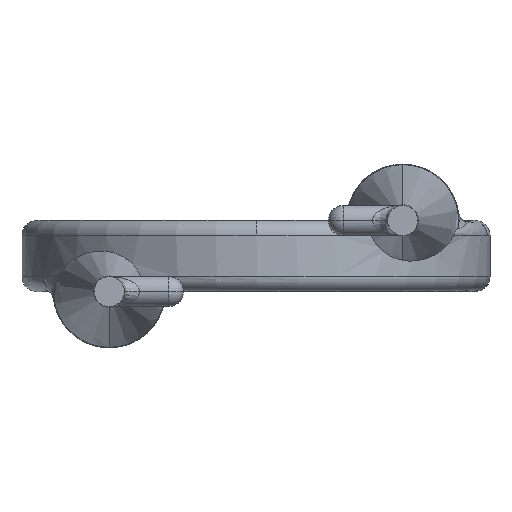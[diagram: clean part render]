
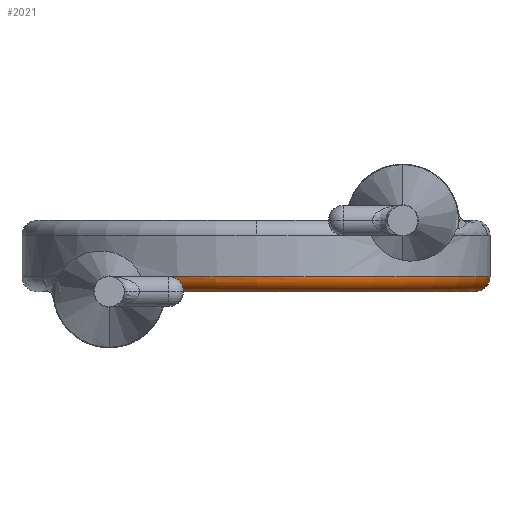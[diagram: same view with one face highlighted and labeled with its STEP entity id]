
A CAD part, front view. The second image highlights one B-rep face of the part: STEP entity #2021.
In plain terms, the highlighted toroidal (fillet/blend) face has major radius 3.7 mm and minor radius 0.25 mm.
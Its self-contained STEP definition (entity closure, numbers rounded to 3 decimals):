
#38 = DIRECTION ( 'NONE',  ( 0., 0., -1. ) ) ;
#95 = CARTESIAN_POINT ( 'NONE',  ( 0., 0., -0.35 ) ) ;
#254 = VERTEX_POINT ( 'NONE', #4422 ) ;
#306 = TOROIDAL_SURFACE ( 'NONE', #2233, 3.7, 0.25 ) ;
#681 = ORIENTED_EDGE ( 'NONE', *, *, #5674, .F. ) ;
#942 = AXIS2_PLACEMENT_3D ( 'NONE', #2307, #1697, #4645 ) ;
#958 = DIRECTION ( 'NONE',  ( 1., 0.005, 0. ) ) ;
#966 = DIRECTION ( 'NONE',  ( 1., 0.005, 0. ) ) ;
#1116 = ORIENTED_EDGE ( 'NONE', *, *, #1457, .T. ) ;
#1393 = EDGE_CURVE ( 'NONE', #1928, #2282, #2376, .T. ) ;
#1457 = EDGE_CURVE ( 'NONE', #6253, #2282, #2393, .T. ) ;
#1697 = DIRECTION ( 'NONE',  ( 0., 0., -1. ) ) ;
#1797 = CARTESIAN_POINT ( 'NONE',  ( 0., 0., -0.35 ) ) ;
#1829 = CARTESIAN_POINT ( 'NONE',  ( -1.837, -3.212, -0.6 ) ) ;
#1848 = AXIS2_PLACEMENT_3D ( 'NONE', #5237, #2364, #958 ) ;
#1861 = CARTESIAN_POINT ( 'NONE',  ( -1.945, -3.438, -0.35 ) ) ;
#1892 = CARTESIAN_POINT ( 'NONE',  ( -1.869, -3.353, -0.568 ) ) ;
#1928 = VERTEX_POINT ( 'NONE', #5721 ) ;
#2021 = ADVANCED_FACE ( 'NONE', ( #6264 ), #306, .T. ) ;
#2233 = AXIS2_PLACEMENT_3D ( 'NONE', #95, #4890, #966 ) ;
#2282 = VERTEX_POINT ( 'NONE', #5306 ) ;
#2307 = CARTESIAN_POINT ( 'NONE',  ( 0., 0., -0.6 ) ) ;
#2364 = DIRECTION ( 'NONE',  ( 0.005, -1., 0. ) ) ;
#2376 = B_SPLINE_CURVE_WITH_KNOTS ( 'NONE', 3,
 ( #1829, #6140, #1892, #2411, #3774, #1861 ),
 .UNSPECIFIED., .F., .F.,
 ( 4, 2, 4 ),
 ( 0., 0.5, 1. ),
 .UNSPECIFIED. ) ;
#2393 = CIRCLE ( 'NONE', #5720, 3.95 ) ;
#2411 = CARTESIAN_POINT ( 'NONE',  ( -1.9, -3.436, -0.474 ) ) ;
#2501 = VERTEX_POINT ( 'NONE', #4665 ) ;
#3068 = EDGE_CURVE ( 'NONE', #254, #2501, #3786, .T. ) ;
#3170 = ORIENTED_EDGE ( 'NONE', *, *, #3068, .T. ) ;
#3680 = CIRCLE ( 'NONE', #942, 3.7 ) ;
#3742 = DIRECTION ( 'NONE',  ( 0., 0., -1. ) ) ;
#3774 = CARTESIAN_POINT ( 'NONE',  ( -1.919, -3.453, -0.413 ) ) ;
#3786 = CIRCLE ( 'NONE', #1848, 0.25 ) ;
#3854 = ORIENTED_EDGE ( 'NONE', *, *, #4396, .T. ) ;
#3952 = CARTESIAN_POINT ( 'NONE',  ( 3.95, 0., -0.35 ) ) ;
#4026 = CIRCLE ( 'NONE', #5949, 3.95 ) ;
#4317 = CARTESIAN_POINT ( 'NONE',  ( 0., 0., -0.35 ) ) ;
#4345 = DIRECTION ( 'NONE',  ( 1., 0., 0. ) ) ;
#4396 = EDGE_CURVE ( 'NONE', #2501, #6253, #4026, .T. ) ;
#4422 = CARTESIAN_POINT ( 'NONE',  ( 3.7, 0.02, -0.6 ) ) ;
#4645 = DIRECTION ( 'NONE',  ( -0.945, -0.328, 0. ) ) ;
#4665 = CARTESIAN_POINT ( 'NONE',  ( 3.95, 0.021, -0.35 ) ) ;
#4890 = DIRECTION ( 'NONE',  ( 0., 0., 1. ) ) ;
#5237 = CARTESIAN_POINT ( 'NONE',  ( 3.7, 0.02, -0.35 ) ) ;
#5306 = CARTESIAN_POINT ( 'NONE',  ( -1.945, -3.438, -0.35 ) ) ;
#5358 = DIRECTION ( 'NONE',  ( -1., 0., 0. ) ) ;
#5674 = EDGE_CURVE ( 'NONE', #254, #1928, #3680, .T. ) ;
#5676 = ORIENTED_EDGE ( 'NONE', *, *, #1393, .F. ) ;
#5720 = AXIS2_PLACEMENT_3D ( 'NONE', #1797, #3742, #4345 ) ;
#5721 = CARTESIAN_POINT ( 'NONE',  ( -1.837, -3.212, -0.6 ) ) ;
#5949 = AXIS2_PLACEMENT_3D ( 'NONE', #4317, #38, #5358 ) ;
#6017 = EDGE_LOOP ( 'NONE', ( #681, #3170, #3854, #1116, #5676 ) ) ;
#6140 = CARTESIAN_POINT ( 'NONE',  ( -1.854, -3.287, -0.6 ) ) ;
#6253 = VERTEX_POINT ( 'NONE', #3952 ) ;
#6264 = FACE_OUTER_BOUND ( 'NONE', #6017, .T. ) ;
